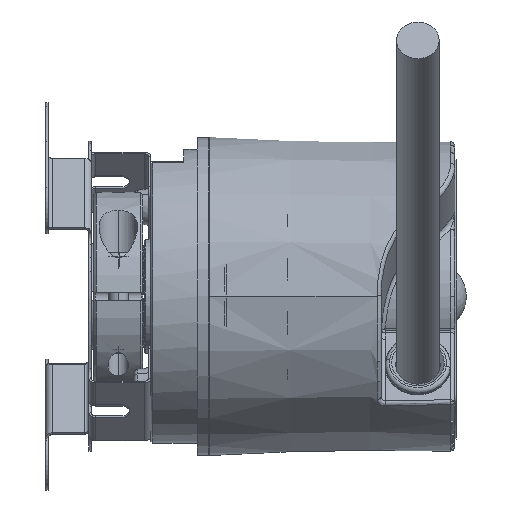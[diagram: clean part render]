
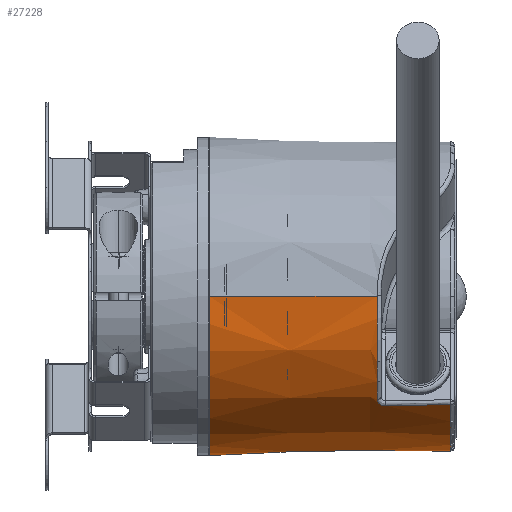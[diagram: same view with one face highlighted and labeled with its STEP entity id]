
A CAD part, front view. The second image highlights one B-rep face of the part: STEP entity #27228.
In plain terms, the highlighted conical face has half-angle 1 degrees and reference radius 18.976 mm.
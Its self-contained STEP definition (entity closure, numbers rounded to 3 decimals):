
#6433 = DIRECTION ( 'NONE',  ( 0., -1., 0. ) ) ;
#6435 = DIRECTION ( 'NONE',  ( -1., 0., 0. ) ) ;
#6436 = CARTESIAN_POINT ( 'NONE',  ( 12.2, 0., 0. ) ) ;
#6437 = AXIS2_PLACEMENT_3D ( 'NONE', #6436, #6435, #6433 ) ;
#6438 = CIRCLE ( 'NONE', #6437, 19.5 ) ;
#25154 = EDGE_CURVE ( 'NONE', #35563, #35550, #6438, .T. ) ;
#25436 = DIRECTION ( 'NONE',  ( 0., 1., 0. ) ) ;
#25439 = DIRECTION ( 'NONE',  ( -1., 0., 0. ) ) ;
#25440 = CARTESIAN_POINT ( 'NONE',  ( 41.709, 0., 0. ) ) ;
#25442 = AXIS2_PLACEMENT_3D ( 'NONE', #25440, #25439, #25436 ) ;
#25445 = CIRCLE ( 'NONE', #25442, 18.985 ) ;
#25478 = B_SPLINE_CURVE_WITH_KNOTS ( 'NONE', 3,
 ( #25671, #25669, #25666, #25663, #25660, #25658, #25656, #25653, #25651, #25649 ),
 .UNSPECIFIED., .F., .F.,
 ( 4, 2, 2, 2, 4 ),
 ( 0., 0., 0.001, 0.001, 0.002 ),
 .UNSPECIFIED. ) ;
#25489 = CARTESIAN_POINT ( 'NONE',  ( 33.709, -13.658, -13.387 ) ) ;
#25491 = CARTESIAN_POINT ( 'NONE',  ( 34.709, -13.649, -13.371 ) ) ;
#25495 = CARTESIAN_POINT ( 'NONE',  ( 35.709, -13.64, -13.356 ) ) ;
#25498 = CARTESIAN_POINT ( 'NONE',  ( 36.71, -13.631, -13.34 ) ) ;
#25500 = CARTESIAN_POINT ( 'NONE',  ( 38.043, -13.619, -13.319 ) ) ;
#25503 = CARTESIAN_POINT ( 'NONE',  ( 39.376, -13.607, -13.298 ) ) ;
#25504 = CARTESIAN_POINT ( 'NONE',  ( 40.709, -13.595, -13.277 ) ) ;
#25507 = CARTESIAN_POINT ( 'NONE',  ( 41.042, -13.592, -13.271 ) ) ;
#25511 = CARTESIAN_POINT ( 'NONE',  ( 41.375, -13.589, -13.266 ) ) ;
#25514 = CARTESIAN_POINT ( 'NONE',  ( 41.709, -13.586, -13.261 ) ) ;
#25534 = CARTESIAN_POINT ( 'NONE',  ( 33.709, -13.658, -13.387 ) ) ;
#25537 = B_SPLINE_CURVE_WITH_KNOTS ( 'NONE', 3,
 ( #25514, #25511, #25507, #25504, #25503, #25500, #25498, #25495, #25491, #25489 ),
 .UNSPECIFIED., .F., .F.,
 ( 4, 3, 3, 4 ),
 ( 0., 0.001, 0.005, 0.008 ),
 .UNSPECIFIED. ) ;
#25620 = DIRECTION ( 'NONE',  ( 0., -1., 0. ) ) ;
#25623 = DIRECTION ( 'NONE',  ( -1., 0., 0. ) ) ;
#25625 = CARTESIAN_POINT ( 'NONE',  ( 32.709, 0., 0. ) ) ;
#25627 = AXIS2_PLACEMENT_3D ( 'NONE', #25625, #25623, #25620 ) ;
#25629 = CIRCLE ( 'NONE', #25627, 19.142 ) ;
#25638 = CARTESIAN_POINT ( 'NONE',  ( 32.709, -14.397, -12.615 ) ) ;
#25649 = CARTESIAN_POINT ( 'NONE',  ( 33.709, -13.658, -13.387 ) ) ;
#25651 = CARTESIAN_POINT ( 'NONE',  ( 33.572, -13.659, -13.389 ) ) ;
#25653 = CARTESIAN_POINT ( 'NONE',  ( 33.437, -13.681, -13.37 ) ) ;
#25656 = CARTESIAN_POINT ( 'NONE',  ( 33.19, -13.762, -13.293 ) ) ;
#25658 = CARTESIAN_POINT ( 'NONE',  ( 33.079, -13.821, -13.235 ) ) ;
#25660 = CARTESIAN_POINT ( 'NONE',  ( 32.898, -13.961, -13.091 ) ) ;
#25663 = CARTESIAN_POINT ( 'NONE',  ( 32.827, -14.044, -13.005 ) ) ;
#25666 = CARTESIAN_POINT ( 'NONE',  ( 32.733, -14.216, -12.819 ) ) ;
#25669 = CARTESIAN_POINT ( 'NONE',  ( 32.709, -14.307, -12.718 ) ) ;
#25671 = CARTESIAN_POINT ( 'NONE',  ( 32.709, -14.397, -12.615 ) ) ;
#25794 = FACE_OUTER_BOUND ( 'NONE', #27334, .T. ) ;
#25916 = DIRECTION ( 'NONE',  ( 0., -1., 0. ) ) ;
#25918 = DIRECTION ( 'NONE',  ( -1., 0., 0. ) ) ;
#25921 = CARTESIAN_POINT ( 'NONE',  ( 42.2, 0., 0. ) ) ;
#25923 = AXIS2_PLACEMENT_3D ( 'NONE', #25921, #25918, #25916 ) ;
#25938 = CONICAL_SURFACE ( 'NONE', #25923, 18.976, 0.017 ) ;
#27165 = ORIENTED_EDGE ( 'NONE', *, *, #27167, .T. ) ;
#27167 = EDGE_CURVE ( 'NONE', #35569, #35491, #25445, .T. ) ;
#27169 = ORIENTED_EDGE ( 'NONE', *, *, #27175, .T. ) ;
#27175 = EDGE_CURVE ( 'NONE', #35491, #27177, #25537, .T. ) ;
#27177 = VERTEX_POINT ( 'NONE', #25534 ) ;
#27182 = ORIENTED_EDGE ( 'NONE', *, *, #27184, .F. ) ;
#27184 = EDGE_CURVE ( 'NONE', #27188, #27177, #25478, .T. ) ;
#27188 = VERTEX_POINT ( 'NONE', #25638 ) ;
#27190 = ORIENTED_EDGE ( 'NONE', *, *, #27193, .T. ) ;
#27193 = EDGE_CURVE ( 'NONE', #27188, #35538, #25629, .T. ) ;
#27198 = ORIENTED_EDGE ( 'NONE', *, *, #35566, .T. ) ;
#27211 = ORIENTED_EDGE ( 'NONE', *, *, #25154, .F. ) ;
#27228 = ADVANCED_FACE ( 'NONE', ( #25794 ), #25938, .T. ) ;
#27334 = EDGE_LOOP ( 'NONE', ( #27342, #27165, #27169, #27182, #27190, #27198, #27211 ) ) ;
#27342 = ORIENTED_EDGE ( 'NONE', *, *, #35562, .F. ) ;
#35491 = VERTEX_POINT ( 'NONE', #63721 ) ;
#35538 = VERTEX_POINT ( 'NONE', #63877 ) ;
#35550 = VERTEX_POINT ( 'NONE', #63941 ) ;
#35562 = EDGE_CURVE ( 'NONE', #35569, #35563, #64014, .T. ) ;
#35563 = VERTEX_POINT ( 'NONE', #64010 ) ;
#35566 = EDGE_CURVE ( 'NONE', #35538, #35550, #64004, .T. ) ;
#35569 = VERTEX_POINT ( 'NONE', #64000 ) ;
#63721 = CARTESIAN_POINT ( 'NONE',  ( 41.709, -13.586, -13.261 ) ) ;
#63877 = CARTESIAN_POINT ( 'NONE',  ( 32.709, -19.142, 0. ) ) ;
#63941 = CARTESIAN_POINT ( 'NONE',  ( 12.2, -19.5, 0. ) ) ;
#64000 = CARTESIAN_POINT ( 'NONE',  ( 41.709, 18.985, 0. ) ) ;
#64001 = DIRECTION ( 'NONE',  ( -1., -0.017, 0. ) ) ;
#64002 = VECTOR ( 'NONE', #64001, 1000. ) ;
#64003 = CARTESIAN_POINT ( 'NONE',  ( 42.2, -18.976, 0. ) ) ;
#64004 = LINE ( 'NONE', #64003, #64002 ) ;
#64010 = CARTESIAN_POINT ( 'NONE',  ( 12.2, 19.5, 0. ) ) ;
#64011 = DIRECTION ( 'NONE',  ( -1., 0.017, 0. ) ) ;
#64012 = VECTOR ( 'NONE', #64011, 1000. ) ;
#64013 = CARTESIAN_POINT ( 'NONE',  ( 42.2, 18.976, 0. ) ) ;
#64014 = LINE ( 'NONE', #64013, #64012 ) ;
